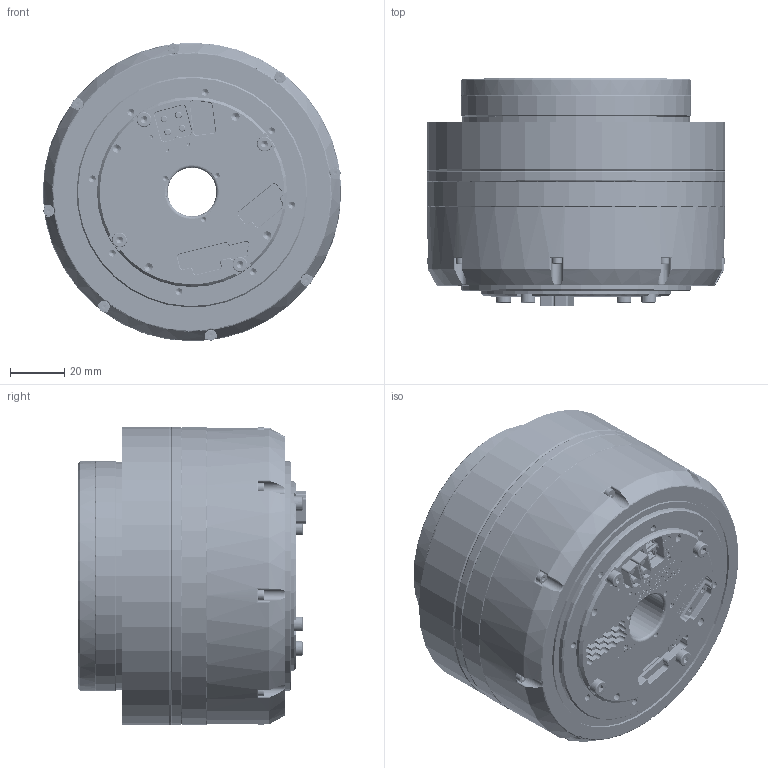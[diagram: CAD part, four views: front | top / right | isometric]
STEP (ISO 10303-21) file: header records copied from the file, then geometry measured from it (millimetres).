
FILE_DESCRIPTION (( 'STEP AP203' ), '1' );
FILE_NAME ('eRob110H｡ﾁ｡ﾁI-XX-18EX_V6_MC2E.DX.XX.step', '2024-05-21T10:22:12', ( 'Windows User' ), ( 'P R C' ), 'SwSTEP 2.0', 'SolidWorks 2021', '' );
FILE_SCHEMA (( 'CONFIG_CONTROL_DESIGN' ));
Length unit declared in the file: millimetre
Products named in the file (1): eRob110H××I-XX-18EX_V6_MC2E.DX.XX
Bounding box: 110 x 83.6 x 110 mm (x, y, z)
Volume: 642447.2 mm3; surface area: 66369.4 mm2
Topology: 1 solids, 1 shells, 5168 faces, 13950 edges, 9008 vertices
Faces by surface type: plane 2613, cylinder 1749, bspline 523, cone 189, torus 94
Entity records: 345044 total; most frequent: CARTESIAN_POINT 225115, ORIENTED_EDGE 27680, DIRECTION 21304, EDGE_CURVE 13840, VERTEX_POINT 9008, VECTOR 8362, LINE 8362, AXIS2_PLACEMENT_3D 6471
